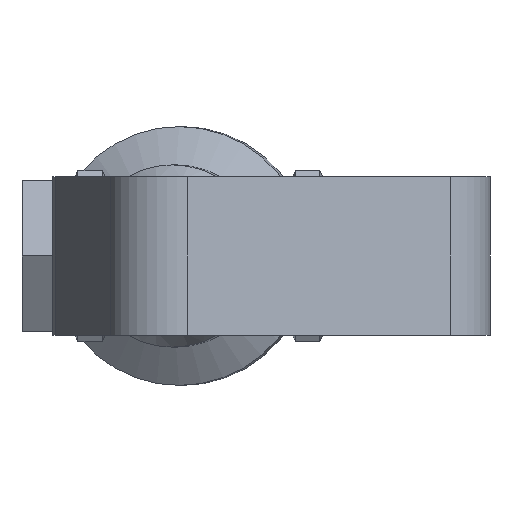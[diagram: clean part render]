
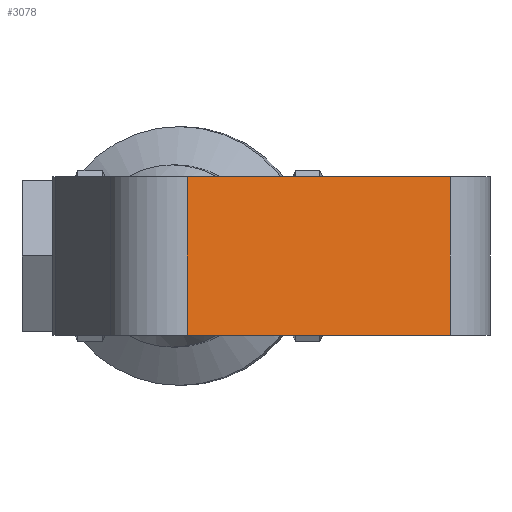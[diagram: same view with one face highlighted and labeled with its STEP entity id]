
A CAD part, front view. The second image highlights one B-rep face of the part: STEP entity #3078.
In plain terms, the highlighted planar face has unit normal (0.342, -0.94, 0).
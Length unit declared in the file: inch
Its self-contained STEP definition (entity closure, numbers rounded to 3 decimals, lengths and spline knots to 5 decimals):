
#107=PLANE('',#3402);
#244=FACE_OUTER_BOUND('',#426,.T.);
#426=EDGE_LOOP('',(#2130,#2131,#2132,#2133));
#619=LINE('',#4827,#863);
#626=LINE('',#4862,#870);
#627=LINE('',#4865,#871);
#628=LINE('',#4866,#872);
#863=VECTOR('',#3854,0.3937);
#870=VECTOR('',#3893,0.3937);
#871=VECTOR('',#3896,0.3937);
#872=VECTOR('',#3897,0.3937);
#1305=VERTEX_POINT('',#4824);
#1306=VERTEX_POINT('',#4826);
#1318=VERTEX_POINT('',#4860);
#1319=VERTEX_POINT('',#4864);
#1615=EDGE_CURVE('',#1305,#1306,#619,.T.);
#1632=EDGE_CURVE('',#1318,#1305,#626,.T.);
#1633=EDGE_CURVE('',#1319,#1318,#627,.T.);
#1634=EDGE_CURVE('',#1319,#1306,#628,.T.);
#2130=ORIENTED_EDGE('',*,*,#1632,.F.);
#2131=ORIENTED_EDGE('',*,*,#1633,.F.);
#2132=ORIENTED_EDGE('',*,*,#1634,.T.);
#2133=ORIENTED_EDGE('',*,*,#1615,.F.);
#3078=ADVANCED_FACE('',(#244),#107,.T.);
#3402=AXIS2_PLACEMENT_3D('',#4863,#3894,#3895);
#3854=DIRECTION('',(-0.94,-0.342,0.));
#3893=DIRECTION('',(0.,0.,-1.));
#3894=DIRECTION('center_axis',(0.342,-0.94,0.));
#3895=DIRECTION('ref_axis',(0.94,0.342,0.));
#3896=DIRECTION('',(0.94,0.342,0.));
#3897=DIRECTION('',(0.,0.,-1.));
#4824=CARTESIAN_POINT('',(2.06739,-4.36272,-0.65));
#4826=CARTESIAN_POINT('',(-0.09522,-5.14985,-0.65));
#4827=CARTESIAN_POINT('',(2.06739,-4.36272,-0.65));
#4860=CARTESIAN_POINT('',(2.06739,-4.36272,0.65));
#4862=CARTESIAN_POINT('',(2.06739,-4.36272,0.));
#4863=CARTESIAN_POINT('Origin',(-0.09522,-5.14985,0.));
#4864=CARTESIAN_POINT('',(-0.09522,-5.14985,0.65));
#4865=CARTESIAN_POINT('',(2.06739,-4.36272,0.65));
#4866=CARTESIAN_POINT('',(-0.09522,-5.14985,0.));
